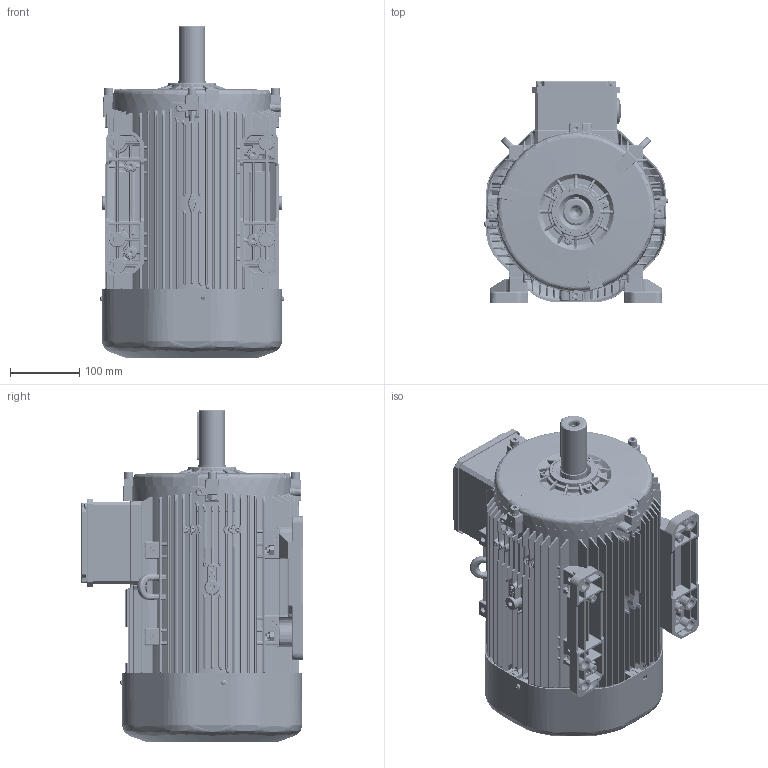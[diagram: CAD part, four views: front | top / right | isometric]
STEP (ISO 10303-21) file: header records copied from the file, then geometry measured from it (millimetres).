
FILE_DESCRIPTION(/* description */ (''),/* implementation_level */ '2;1');
FILE_NAME(/* name */ 'Q(2_3)H_132_B3_OUTLOOK.stp',/* time_stamp */ '2017-04-20T14:33:43+03:00',/* author */ (''),/* organization */ (''),/* preprocessor_version */ 'ST-DEVELOPER v15',/* originating_system */ 'SIEMENS PLM Software NX 9.0',/* authorisation */ '');
FILE_SCHEMA (('CONFIG_CONTROL_DESIGN'));
Products named in the file (1): AR-000000806498_001
Bounding box: 266.12 x 322.22 x 480.49 mm (x, y, z)
Volume: 3998403.7 mm3; surface area: 1762977.2 mm2
Topology: 58 solids, 1032 shells, 16099 faces, 40146 edges, 24263 vertices
Faces by surface type: bspline 5131, cylinder 4823, plane 3113, sphere 1492, torus 821, cone 719
Full cylindrical faces by diameter (mm): 4 x3, 4.2 x6, 5.5 x8, 5.6 x1, 6.647 x12, 8 x6, 8.028 x3, 8.467 x1, 8.475 x2, 8.477 x2, 8.478 x1, 8.5 x3, 12 x1, 14 x1, 15 x2, 16.2 x1, 24.2 x1, 24.3 x1, 24.404 x1, 30.4 x2, 37.6 x1, 38 x1, 40 x2, 45 x1, 46.5 x1, 58.667 x1, 62 x3, 73 x2, 80 x2, 80.6 x2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
Entity records: 564391 total; most frequent: CARTESIAN_POINT 216911, ORIENTED_EDGE 72731, DIRECTION 69168, EDGE_CURVE 38573, AXIS2_PLACEMENT_3D 28445, VERTEX_POINT 24095, EDGE_LOOP 17180, ADVANCED_FACE 16097
